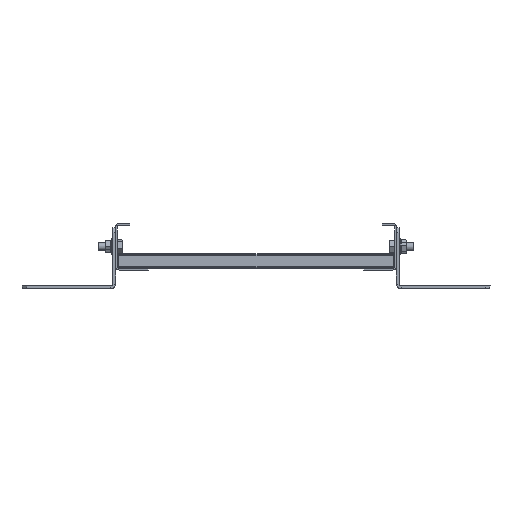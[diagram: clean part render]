
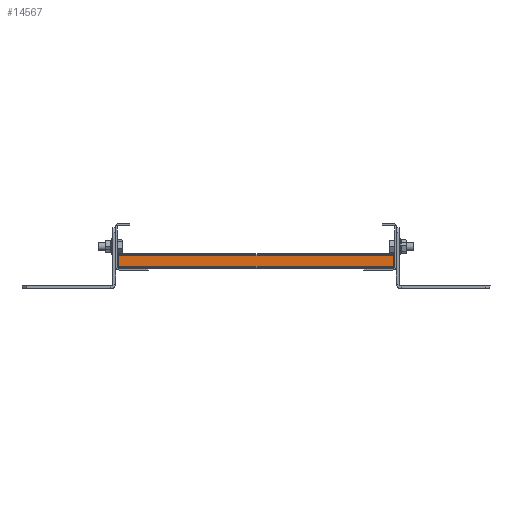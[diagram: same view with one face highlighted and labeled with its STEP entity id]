
A CAD part, front view. The second image highlights one B-rep face of the part: STEP entity #14567.
In plain terms, the highlighted planar face has unit normal (0, -1, 0) as drawn and (-1, 0, 0) by its records, which use the part's own axes.
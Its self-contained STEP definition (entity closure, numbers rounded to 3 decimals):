
#52 = ORIENTED_EDGE ( 'NONE', *, *, #18084, .F. ) ;
#741 = CARTESIAN_POINT ( 'NONE',  ( -17.5, 13.64, 293. ) ) ;
#948 = DIRECTION ( 'NONE',  ( 0., -1., 0. ) ) ;
#1032 = CARTESIAN_POINT ( 'NONE',  ( -17.5, 1.8, 293. ) ) ;
#1280 = VECTOR ( 'NONE', #10019, 1000. ) ;
#3155 = EDGE_LOOP ( 'NONE', ( #21435, #52, #18605, #12067 ) ) ;
#4043 = PLANE ( 'NONE',  #21192 ) ;
#4871 = VECTOR ( 'NONE', #11037, 1000. ) ;
#5656 = EDGE_CURVE ( 'NONE', #13997, #14465, #21344, .T. ) ;
#5863 = CARTESIAN_POINT ( 'NONE',  ( -17.5, 15.44, 293. ) ) ;
#6511 = CARTESIAN_POINT ( 'NONE',  ( -17.5, 13.64, 293. ) ) ;
#6625 = VERTEX_POINT ( 'NONE', #6511 ) ;
#7461 = EDGE_CURVE ( 'NONE', #6625, #14465, #18576, .T. ) ;
#7677 = VECTOR ( 'NONE', #11379, 1000. ) ;
#9654 = CARTESIAN_POINT ( 'NONE',  ( -17.5, 15.44, 293. ) ) ;
#10019 = DIRECTION ( 'NONE',  ( 0., 1., 0. ) ) ;
#10577 = FACE_OUTER_BOUND ( 'NONE', #3155, .T. ) ;
#11037 = DIRECTION ( 'NONE',  ( 0., 0., -1. ) ) ;
#11379 = DIRECTION ( 'NONE',  ( 0., 1., 0. ) ) ;
#12067 = ORIENTED_EDGE ( 'NONE', *, *, #7461, .T. ) ;
#12748 = DIRECTION ( 'NONE',  ( -1., 0., 0. ) ) ;
#13997 = VERTEX_POINT ( 'NONE', #17318 ) ;
#14465 = VERTEX_POINT ( 'NONE', #15489 ) ;
#14567 = ADVANCED_FACE ( 'NONE', ( #10577 ), #4043, .T. ) ;
#14731 = DIRECTION ( 'NONE',  ( 0., 0., -1. ) ) ;
#15143 = VECTOR ( 'NONE', #14731, 1000. ) ;
#15489 = CARTESIAN_POINT ( 'NONE',  ( -17.5, 13.64, 0. ) ) ;
#16728 = LINE ( 'NONE', #1032, #15143 ) ;
#17318 = CARTESIAN_POINT ( 'NONE',  ( -17.5, 1.8, 0. ) ) ;
#18084 = EDGE_CURVE ( 'NONE', #20782, #13997, #16728, .T. ) ;
#18576 = LINE ( 'NONE', #741, #4871 ) ;
#18605 = ORIENTED_EDGE ( 'NONE', *, *, #19681, .T. ) ;
#19681 = EDGE_CURVE ( 'NONE', #20782, #6625, #21700, .T. ) ;
#19785 = CARTESIAN_POINT ( 'NONE',  ( -17.5, 1.8, 293. ) ) ;
#20379 = CARTESIAN_POINT ( 'NONE',  ( -17.5, 15.44, 0. ) ) ;
#20782 = VERTEX_POINT ( 'NONE', #19785 ) ;
#21192 = AXIS2_PLACEMENT_3D ( 'NONE', #5863, #12748, #948 ) ;
#21344 = LINE ( 'NONE', #20379, #1280 ) ;
#21435 = ORIENTED_EDGE ( 'NONE', *, *, #5656, .F. ) ;
#21700 = LINE ( 'NONE', #9654, #7677 ) ;
